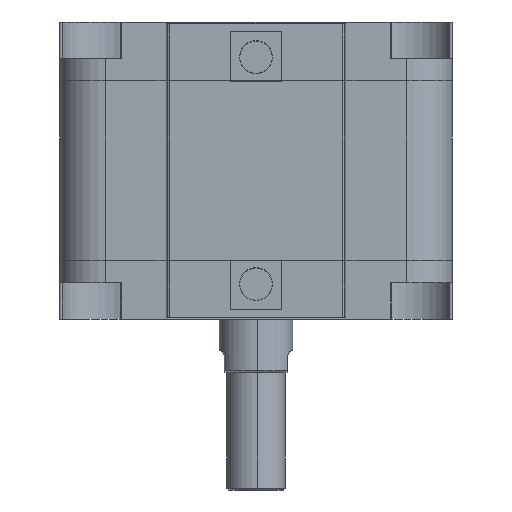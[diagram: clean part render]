
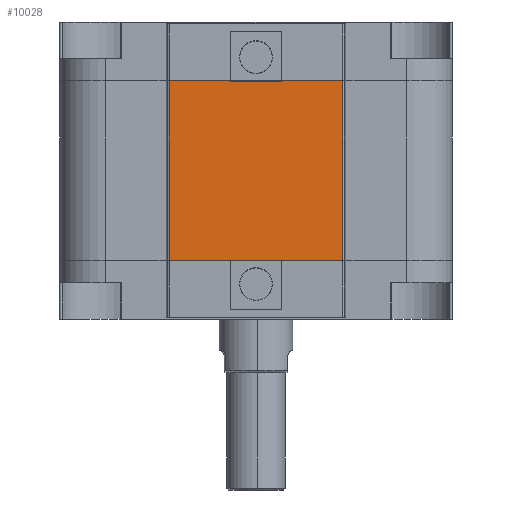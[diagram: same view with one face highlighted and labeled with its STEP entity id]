
A CAD part, front view. The second image highlights one B-rep face of the part: STEP entity #10028.
In plain terms, the highlighted planar face has unit normal (0, -1, 0).
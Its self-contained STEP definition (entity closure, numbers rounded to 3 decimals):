
#435 = CARTESIAN_POINT ( 'NONE',  ( -23.647, -57.5, 0. ) ) ;
#720 = CARTESIAN_POINT ( 'NONE',  ( -23.647, -57.5, -49. ) ) ;
#1191 = VECTOR ( 'NONE', #13586, 1000. ) ;
#2110 = ORIENTED_EDGE ( 'NONE', *, *, #14903, .F. ) ;
#2720 = LINE ( 'NONE', #11578, #9687 ) ;
#2766 = VERTEX_POINT ( 'NONE', #16661 ) ;
#2924 = LINE ( 'NONE', #720, #17245 ) ;
#3550 = EDGE_CURVE ( 'NONE', #11053, #2766, #2720, .T. ) ;
#3859 = EDGE_CURVE ( 'NONE', #13447, #5604, #8999, .T. ) ;
#5604 = VERTEX_POINT ( 'NONE', #6012 ) ;
#6012 = CARTESIAN_POINT ( 'NONE',  ( 23.647, -57.5, -49. ) ) ;
#6514 = DIRECTION ( 'NONE',  ( 0., 0., -1. ) ) ;
#6654 = CARTESIAN_POINT ( 'NONE',  ( 0., -57.5, -49. ) ) ;
#6947 = CARTESIAN_POINT ( 'NONE',  ( -23.647, -57.5, -49. ) ) ;
#8999 = LINE ( 'NONE', #6654, #1191 ) ;
#9432 = EDGE_LOOP ( 'NONE', ( #9518, #2110, #13465, #13925 ) ) ;
#9518 = ORIENTED_EDGE ( 'NONE', *, *, #3550, .F. ) ;
#9687 = VECTOR ( 'NONE', #10190, 1000. ) ;
#10028 = ADVANCED_FACE ( 'NONE', ( #14116 ), #12056, .T. ) ;
#10190 = DIRECTION ( 'NONE',  ( 1., 0., 0. ) ) ;
#10406 = EDGE_CURVE ( 'NONE', #5604, #2766, #12612, .T. ) ;
#10453 = DIRECTION ( 'NONE',  ( 0., 0., 1. ) ) ;
#11053 = VERTEX_POINT ( 'NONE', #435 ) ;
#11578 = CARTESIAN_POINT ( 'NONE',  ( 0., -57.5, 0. ) ) ;
#11724 = VECTOR ( 'NONE', #12893, 1000. ) ;
#12056 = PLANE ( 'NONE',  #13040 ) ;
#12612 = LINE ( 'NONE', #16976, #11724 ) ;
#12893 = DIRECTION ( 'NONE',  ( 0., 0., 1. ) ) ;
#13040 = AXIS2_PLACEMENT_3D ( 'NONE', #13455, #14840, #6514 ) ;
#13447 = VERTEX_POINT ( 'NONE', #6947 ) ;
#13455 = CARTESIAN_POINT ( 'NONE',  ( 0., -57.5, -49. ) ) ;
#13465 = ORIENTED_EDGE ( 'NONE', *, *, #3859, .T. ) ;
#13586 = DIRECTION ( 'NONE',  ( 1., 0., 0. ) ) ;
#13925 = ORIENTED_EDGE ( 'NONE', *, *, #10406, .T. ) ;
#14116 = FACE_OUTER_BOUND ( 'NONE', #9432, .T. ) ;
#14840 = DIRECTION ( 'NONE',  ( 0., -1., 0. ) ) ;
#14903 = EDGE_CURVE ( 'NONE', #13447, #11053, #2924, .T. ) ;
#16661 = CARTESIAN_POINT ( 'NONE',  ( 23.647, -57.5, 0. ) ) ;
#16976 = CARTESIAN_POINT ( 'NONE',  ( 23.647, -57.5, -49. ) ) ;
#17245 = VECTOR ( 'NONE', #10453, 1000. ) ;
